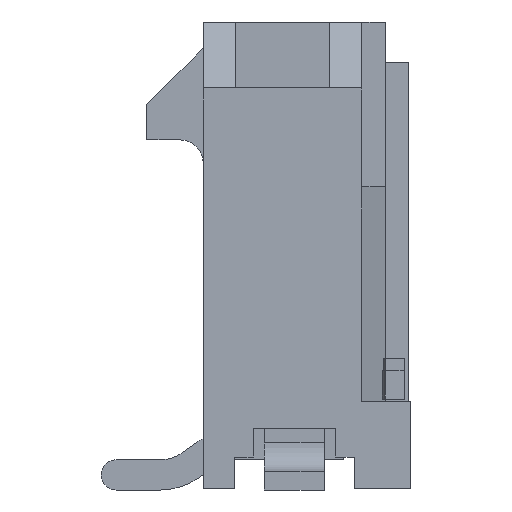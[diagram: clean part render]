
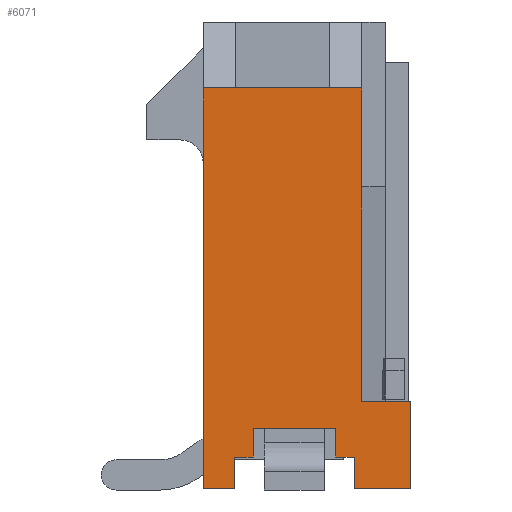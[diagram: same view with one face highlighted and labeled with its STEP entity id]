
A CAD part, left-side view. The second image highlights one B-rep face of the part: STEP entity #6071.
In plain terms, the highlighted planar face has unit normal (-1, 0, 0).
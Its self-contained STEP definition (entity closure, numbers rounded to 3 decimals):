
#941=DIRECTION('',(0.,0.,-1.));
#942=VECTOR('',#941,2.1);
#943=CARTESIAN_POINT('',(-7.825,-1.43,3.55));
#944=LINE('',#943,#942);
#945=DIRECTION('',(0.,0.,1.));
#946=VECTOR('',#945,4.55);
#947=CARTESIAN_POINT('',(-7.825,-1.43,-3.1));
#948=LINE('',#947,#946);
#949=DIRECTION('',(0.,0.,-1.));
#950=VECTOR('',#949,1.85);
#951=CARTESIAN_POINT('',(-7.825,-2.47,-3.1));
#952=LINE('',#951,#950);
#953=DIRECTION('',(0.,1.,0.));
#954=VECTOR('',#953,1.2);
#955=CARTESIAN_POINT('',(-7.825,-2.47,-4.95));
#956=LINE('',#955,#954);
#957=DIRECTION('',(0.,0.,1.));
#958=VECTOR('',#957,0.67);
#959=CARTESIAN_POINT('',(-7.825,-1.27,-4.95));
#960=LINE('',#959,#958);
#961=DIRECTION('',(0.,1.,0.));
#962=VECTOR('',#961,0.395);
#963=CARTESIAN_POINT('',(-7.825,-1.27,-4.28));
#964=LINE('',#963,#962);
#965=DIRECTION('',(0.,0.,-1.));
#966=VECTOR('',#965,0.6);
#967=CARTESIAN_POINT('',(-7.825,-0.875,-3.68));
#968=LINE('',#967,#966);
#969=DIRECTION('',(0.,-1.,0.));
#970=VECTOR('',#969,1.75);
#971=CARTESIAN_POINT('',(-7.825,0.875,-3.68));
#972=LINE('',#971,#970);
#973=DIRECTION('',(0.,0.,-1.));
#974=VECTOR('',#973,0.6);
#975=CARTESIAN_POINT('',(-7.825,0.875,-3.68));
#976=LINE('',#975,#974);
#977=DIRECTION('',(0.,1.,0.));
#978=VECTOR('',#977,0.395);
#979=CARTESIAN_POINT('',(-7.825,0.875,-4.28));
#980=LINE('',#979,#978);
#981=DIRECTION('',(0.,0.,-1.));
#982=VECTOR('',#981,0.67);
#983=CARTESIAN_POINT('',(-7.825,1.27,-4.28));
#984=LINE('',#983,#982);
#985=DIRECTION('',(0.,1.,0.));
#986=VECTOR('',#985,0.66);
#987=CARTESIAN_POINT('',(-7.825,1.27,-4.95));
#988=LINE('',#987,#986);
#989=DIRECTION('',(0.,0.,1.));
#990=VECTOR('',#989,8.5);
#991=CARTESIAN_POINT('',(-7.825,1.93,-4.95));
#992=LINE('',#991,#990);
#993=DIRECTION('',(0.,1.,0.));
#994=VECTOR('',#993,0.68);
#995=CARTESIAN_POINT('',(-7.825,1.25,3.55));
#996=LINE('',#995,#994);
#997=DIRECTION('',(0.,1.,0.));
#998=VECTOR('',#997,2.);
#999=CARTESIAN_POINT('',(-7.825,-0.75,3.55));
#1000=LINE('',#999,#998);
#1001=DIRECTION('',(0.,1.,0.));
#1002=VECTOR('',#1001,0.68);
#1003=CARTESIAN_POINT('',(-7.825,-1.43,3.55));
#1004=LINE('',#1003,#1002);
#1261=DIRECTION('',(0.,1.,0.));
#1262=VECTOR('',#1261,1.04);
#1263=CARTESIAN_POINT('',(-7.825,-2.47,-3.1));
#1264=LINE('',#1263,#1262);
#3725=CARTESIAN_POINT('',(-7.825,-2.47,-3.1));
#3726=CARTESIAN_POINT('',(-7.825,-2.47,-4.95));
#3727=VERTEX_POINT('',#3725);
#3728=VERTEX_POINT('',#3726);
#3729=CARTESIAN_POINT('',(-7.825,-1.27,-4.95));
#3730=VERTEX_POINT('',#3729);
#3737=CARTESIAN_POINT('',(-7.825,-1.27,-4.28));
#3738=VERTEX_POINT('',#3737);
#3739=CARTESIAN_POINT('',(-7.825,1.27,-4.28));
#3740=CARTESIAN_POINT('',(-7.825,1.27,-4.95));
#3741=VERTEX_POINT('',#3739);
#3742=VERTEX_POINT('',#3740);
#3743=CARTESIAN_POINT('',(-7.825,1.93,-4.95));
#3744=VERTEX_POINT('',#3743);
#3769=CARTESIAN_POINT('',(-7.825,-0.75,3.55));
#3770=CARTESIAN_POINT('',(-7.825,1.25,3.55));
#3771=VERTEX_POINT('',#3769);
#3772=VERTEX_POINT('',#3770);
#3823=CARTESIAN_POINT('',(-7.825,-0.875,-4.28));
#3825=VERTEX_POINT('',#3823);
#3827=CARTESIAN_POINT('',(-7.825,0.875,-4.28));
#3829=VERTEX_POINT('',#3827);
#3865=CARTESIAN_POINT('',(-7.825,0.875,-3.68));
#3867=VERTEX_POINT('',#3865);
#3989=CARTESIAN_POINT('',(-7.825,1.93,3.55));
#3991=VERTEX_POINT('',#3989);
#3997=CARTESIAN_POINT('',(-7.825,-0.875,-3.68));
#3998=VERTEX_POINT('',#3997);
#4023=CARTESIAN_POINT('',(-7.825,-1.43,-3.1));
#4024=VERTEX_POINT('',#4023);
#4645=CARTESIAN_POINT('',(-7.825,-1.43,3.55));
#4646=CARTESIAN_POINT('',(-7.825,-1.43,1.45));
#4647=VERTEX_POINT('',#4645);
#4648=VERTEX_POINT('',#4646);
#6036=CARTESIAN_POINT('',(-7.825,0.,0.));
#6037=DIRECTION('',(1.,0.,0.));
#6038=DIRECTION('',(0.,0.,-1.));
#6039=AXIS2_PLACEMENT_3D('',#6036,#6037,#6038);
#6040=PLANE('',#6039);
#6041=ORIENTED_EDGE('',*,*,#5403,.T.);
#6043=ORIENTED_EDGE('',*,*,#6042,.F.);
#6045=ORIENTED_EDGE('',*,*,#6044,.F.);
#6047=ORIENTED_EDGE('',*,*,#6046,.T.);
#6049=ORIENTED_EDGE('',*,*,#6048,.T.);
#6051=ORIENTED_EDGE('',*,*,#6050,.T.);
#6052=ORIENTED_EDGE('',*,*,#4998,.T.);
#6053=ORIENTED_EDGE('',*,*,#5254,.F.);
#6054=ORIENTED_EDGE('',*,*,#5849,.F.);
#6055=ORIENTED_EDGE('',*,*,#5960,.T.);
#6056=ORIENTED_EDGE('',*,*,#5018,.T.);
#6058=ORIENTED_EDGE('',*,*,#6057,.T.);
#6060=ORIENTED_EDGE('',*,*,#6059,.T.);
#6062=ORIENTED_EDGE('',*,*,#6061,.T.);
#6064=ORIENTED_EDGE('',*,*,#6063,.F.);
#6066=ORIENTED_EDGE('',*,*,#6065,.F.);
#6068=ORIENTED_EDGE('',*,*,#6067,.F.);
#6069=EDGE_LOOP('',(#6041,#6043,#6045,#6047,#6049,#6051,#6052,#6053,#6054,#6055,
#6056,#6058,#6060,#6062,#6064,#6066,#6068));
#6070=FACE_OUTER_BOUND('',#6069,.F.);
#6071=ADVANCED_FACE('',(#6070),#6040,.F.);
#4998=EDGE_CURVE('',#3738,#3825,#964,.T.);
#5018=EDGE_CURVE('',#3829,#3741,#980,.T.);
#5254=EDGE_CURVE('',#3998,#3825,#968,.T.);
#5403=EDGE_CURVE('',#4647,#4648,#944,.T.);
#5849=EDGE_CURVE('',#3867,#3998,#972,.T.);
#5960=EDGE_CURVE('',#3867,#3829,#976,.T.);
#6042=EDGE_CURVE('',#4024,#4648,#948,.T.);
#6044=EDGE_CURVE('',#3727,#4024,#1264,.T.);
#6046=EDGE_CURVE('',#3727,#3728,#952,.T.);
#6048=EDGE_CURVE('',#3728,#3730,#956,.T.);
#6050=EDGE_CURVE('',#3730,#3738,#960,.T.);
#6057=EDGE_CURVE('',#3741,#3742,#984,.T.);
#6059=EDGE_CURVE('',#3742,#3744,#988,.T.);
#6061=EDGE_CURVE('',#3744,#3991,#992,.T.);
#6063=EDGE_CURVE('',#3772,#3991,#996,.T.);
#6065=EDGE_CURVE('',#3771,#3772,#1000,.T.);
#6067=EDGE_CURVE('',#4647,#3771,#1004,.T.);
